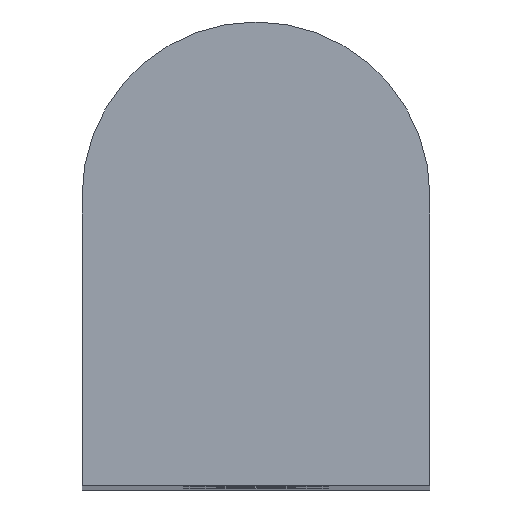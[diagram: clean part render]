
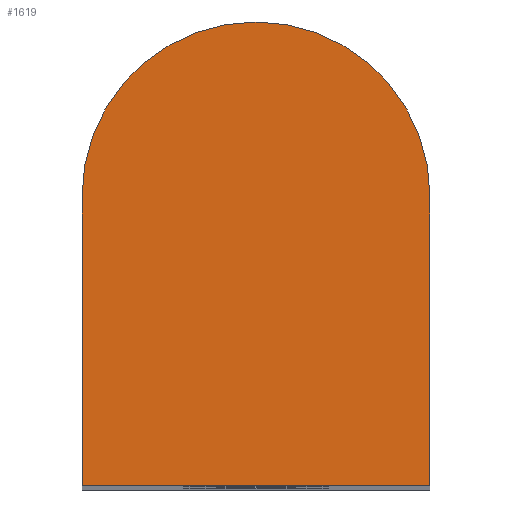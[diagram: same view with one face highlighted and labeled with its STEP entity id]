
A CAD part, top view. The second image highlights one B-rep face of the part: STEP entity #1619.
In plain terms, the highlighted planar face has unit normal (0, 0, 1) as drawn and (0, 0, -1) by its records, which use the part's own axes.
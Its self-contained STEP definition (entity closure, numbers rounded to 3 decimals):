
#21 = CARTESIAN_POINT ( 'NONE',  ( 6., -10., 0. ) ) ;
#70 = EDGE_LOOP ( 'NONE', ( #938, #751, #901, #2154 ) ) ;
#117 = DIRECTION ( 'NONE',  ( 0., 1., 0. ) ) ;
#154 = EDGE_CURVE ( 'NONE', #1715, #1686, #1682, .T. ) ;
#294 = CARTESIAN_POINT ( 'NONE',  ( -6., -10., 0. ) ) ;
#455 = DIRECTION ( 'NONE',  ( 1., 0., 0. ) ) ;
#514 = DIRECTION ( 'NONE',  ( 0., -1., 0. ) ) ;
#520 = CARTESIAN_POINT ( 'NONE',  ( 6., 0., 0. ) ) ;
#555 = CARTESIAN_POINT ( 'NONE',  ( -6., 0., 0. ) ) ;
#569 = CIRCLE ( 'NONE', #1035, 6. ) ;
#587 = VERTEX_POINT ( 'NONE', #21 ) ;
#702 = EDGE_CURVE ( 'NONE', #1961, #1715, #569, .T. ) ;
#751 = ORIENTED_EDGE ( 'NONE', *, *, #1660, .F. ) ;
#901 = ORIENTED_EDGE ( 'NONE', *, *, #1774, .F. ) ;
#938 = ORIENTED_EDGE ( 'NONE', *, *, #702, .F. ) ;
#945 = CARTESIAN_POINT ( 'NONE',  ( 0., 0., 0. ) ) ;
#974 = DIRECTION ( 'NONE',  ( 1., 0., 0. ) ) ;
#1035 = AXIS2_PLACEMENT_3D ( 'NONE', #2119, #2286, #1718 ) ;
#1049 = LINE ( 'NONE', #2125, #1385 ) ;
#1178 = CARTESIAN_POINT ( 'NONE',  ( -6., 0., 0. ) ) ;
#1313 = PLANE ( 'NONE',  #1775 ) ;
#1385 = VECTOR ( 'NONE', #455, 1000. ) ;
#1580 = CARTESIAN_POINT ( 'NONE',  ( 6., 0., 0. ) ) ;
#1619 = ADVANCED_FACE ( 'NONE', ( #1872 ), #1313, .F. ) ;
#1660 = EDGE_CURVE ( 'NONE', #587, #1961, #2317, .T. ) ;
#1682 = LINE ( 'NONE', #555, #2298 ) ;
#1686 = VERTEX_POINT ( 'NONE', #294 ) ;
#1715 = VERTEX_POINT ( 'NONE', #1178 ) ;
#1718 = DIRECTION ( 'NONE',  ( 1., 0., 0. ) ) ;
#1774 = EDGE_CURVE ( 'NONE', #1686, #587, #1049, .T. ) ;
#1775 = AXIS2_PLACEMENT_3D ( 'NONE', #945, #1886, #974 ) ;
#1872 = FACE_OUTER_BOUND ( 'NONE', #70, .T. ) ;
#1886 = DIRECTION ( 'NONE',  ( 0., 0., 1. ) ) ;
#1888 = VECTOR ( 'NONE', #117, 1000. ) ;
#1961 = VERTEX_POINT ( 'NONE', #520 ) ;
#2119 = CARTESIAN_POINT ( 'NONE',  ( 0., 0., 0. ) ) ;
#2125 = CARTESIAN_POINT ( 'NONE',  ( 6., -10., 0. ) ) ;
#2154 = ORIENTED_EDGE ( 'NONE', *, *, #154, .F. ) ;
#2286 = DIRECTION ( 'NONE',  ( 0., 0., 1. ) ) ;
#2298 = VECTOR ( 'NONE', #514, 1000. ) ;
#2317 = LINE ( 'NONE', #1580, #1888 ) ;
